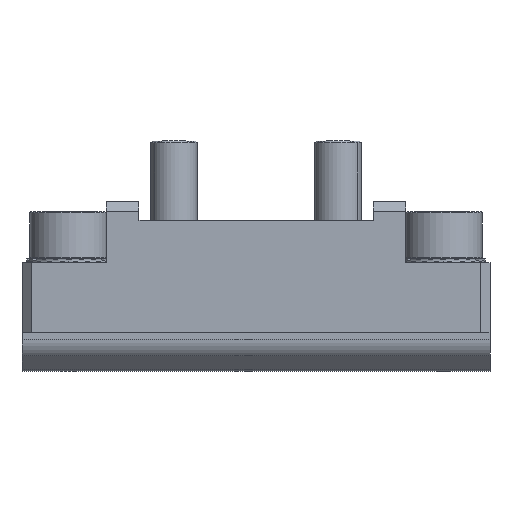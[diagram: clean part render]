
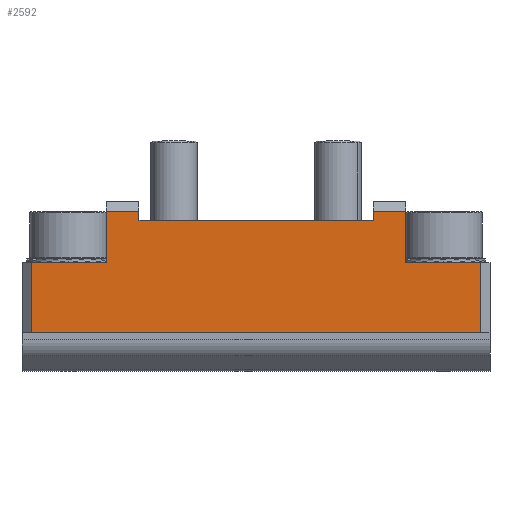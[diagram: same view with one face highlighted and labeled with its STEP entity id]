
A CAD part, top view. The second image highlights one B-rep face of the part: STEP entity #2592.
In plain terms, the highlighted planar face has unit normal (0, 0, 1).
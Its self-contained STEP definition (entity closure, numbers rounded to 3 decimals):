
#101 = LINE ( 'NONE', #7714, #2451 ) ;
#172 = ORIENTED_EDGE ( 'NONE', *, *, #2433, .F. ) ;
#180 = LINE ( 'NONE', #8899, #8640 ) ;
#224 = LINE ( 'NONE', #10156, #4158 ) ;
#262 = EDGE_CURVE ( 'NONE', #6896, #6360, #1498, .T. ) ;
#278 = VERTEX_POINT ( 'NONE', #9020 ) ;
#348 = CARTESIAN_POINT ( 'NONE',  ( -24., 0., 15. ) ) ;
#681 = VERTEX_POINT ( 'NONE', #3800 ) ;
#784 = CARTESIAN_POINT ( 'NONE',  ( 12.5, 12., 15. ) ) ;
#836 = VECTOR ( 'NONE', #8524, 1000. ) ;
#858 = CARTESIAN_POINT ( 'NONE',  ( -12.5, 13., 15. ) ) ;
#940 = LINE ( 'NONE', #9199, #8890 ) ;
#959 = ORIENTED_EDGE ( 'NONE', *, *, #9883, .T. ) ;
#1185 = EDGE_CURVE ( 'NONE', #2679, #5207, #224, .T. ) ;
#1233 = CARTESIAN_POINT ( 'NONE',  ( -25., 7.5, 15. ) ) ;
#1235 = VERTEX_POINT ( 'NONE', #5519 ) ;
#1248 = VECTOR ( 'NONE', #9175, 1000. ) ;
#1415 = EDGE_CURVE ( 'NONE', #2679, #6471, #101, .T. ) ;
#1460 = DIRECTION ( 'NONE',  ( 0., -1., 0. ) ) ;
#1482 = ORIENTED_EDGE ( 'NONE', *, *, #3691, .T. ) ;
#1498 = LINE ( 'NONE', #1848, #1740 ) ;
#1521 = VECTOR ( 'NONE', #7177, 1000. ) ;
#1542 = DIRECTION ( 'NONE',  ( 0., 1., 0. ) ) ;
#1589 = CARTESIAN_POINT ( 'NONE',  ( 12.5, 13., 15. ) ) ;
#1740 = VECTOR ( 'NONE', #5784, 1000. ) ;
#1848 = CARTESIAN_POINT ( 'NONE',  ( -25., 0., 15. ) ) ;
#1884 = CARTESIAN_POINT ( 'NONE',  ( -16., 7.5, 15. ) ) ;
#2433 = EDGE_CURVE ( 'NONE', #1235, #278, #4768, .T. ) ;
#2451 = VECTOR ( 'NONE', #4549, 1000. ) ;
#2592 = ADVANCED_FACE ( 'NONE', ( #9891 ), #9484, .T. ) ;
#2679 = VERTEX_POINT ( 'NONE', #858 ) ;
#2725 = VECTOR ( 'NONE', #1542, 1000. ) ;
#2816 = VERTEX_POINT ( 'NONE', #784 ) ;
#2956 = CARTESIAN_POINT ( 'NONE',  ( 16., 14., 15. ) ) ;
#3004 = CARTESIAN_POINT ( 'NONE',  ( -16., 13., 15. ) ) ;
#3146 = EDGE_CURVE ( 'NONE', #5207, #2816, #940, .T. ) ;
#3606 = DIRECTION ( 'NONE',  ( 1., 0., 0. ) ) ;
#3607 = LINE ( 'NONE', #3970, #1521 ) ;
#3635 = ORIENTED_EDGE ( 'NONE', *, *, #4715, .F. ) ;
#3687 = VECTOR ( 'NONE', #9155, 1000. ) ;
#3691 = EDGE_CURVE ( 'NONE', #6360, #681, #180, .T. ) ;
#3800 = CARTESIAN_POINT ( 'NONE',  ( 24., 7.5, 15. ) ) ;
#3943 = LINE ( 'NONE', #8348, #3687 ) ;
#3970 = CARTESIAN_POINT ( 'NONE',  ( -24., 0., 15. ) ) ;
#4094 = DIRECTION ( 'NONE',  ( 0., 1., 0. ) ) ;
#4158 = VECTOR ( 'NONE', #1460, 1000. ) ;
#4251 = EDGE_LOOP ( 'NONE', ( #7505, #9873, #3635, #4765, #6613, #9668, #1482, #7893, #172, #959, #7540, #9721 ) ) ;
#4252 = CARTESIAN_POINT ( 'NONE',  ( -16., 7.5, 15. ) ) ;
#4549 = DIRECTION ( 'NONE',  ( -1., 0., 0. ) ) ;
#4696 = DIRECTION ( 'NONE',  ( 0., 0., 1. ) ) ;
#4715 = EDGE_CURVE ( 'NONE', #9220, #6471, #6236, .T. ) ;
#4765 = ORIENTED_EDGE ( 'NONE', *, *, #7541, .F. ) ;
#4768 = LINE ( 'NONE', #2956, #836 ) ;
#5136 = CARTESIAN_POINT ( 'NONE',  ( 24., 0., 15. ) ) ;
#5207 = VERTEX_POINT ( 'NONE', #8858 ) ;
#5420 = AXIS2_PLACEMENT_3D ( 'NONE', #7878, #4696, #10136 ) ;
#5422 = CARTESIAN_POINT ( 'NONE',  ( -24., 7.5, 15. ) ) ;
#5519 = CARTESIAN_POINT ( 'NONE',  ( 16., 13., 15. ) ) ;
#5757 = VERTEX_POINT ( 'NONE', #1589 ) ;
#5784 = DIRECTION ( 'NONE',  ( 1., 0., 0. ) ) ;
#5852 = DIRECTION ( 'NONE',  ( 0., 1., 0. ) ) ;
#5973 = VECTOR ( 'NONE', #5852, 1000. ) ;
#6095 = VECTOR ( 'NONE', #9189, 1000. ) ;
#6236 = LINE ( 'NONE', #1884, #5973 ) ;
#6284 = CARTESIAN_POINT ( 'NONE',  ( 12.5, 12., 15. ) ) ;
#6360 = VERTEX_POINT ( 'NONE', #5136 ) ;
#6471 = VERTEX_POINT ( 'NONE', #3004 ) ;
#6613 = ORIENTED_EDGE ( 'NONE', *, *, #7782, .T. ) ;
#6896 = VERTEX_POINT ( 'NONE', #348 ) ;
#6925 = EDGE_CURVE ( 'NONE', #278, #681, #3943, .T. ) ;
#7177 = DIRECTION ( 'NONE',  ( 0., -1., 0. ) ) ;
#7505 = ORIENTED_EDGE ( 'NONE', *, *, #1185, .F. ) ;
#7540 = ORIENTED_EDGE ( 'NONE', *, *, #10162, .F. ) ;
#7541 = EDGE_CURVE ( 'NONE', #8894, #9220, #8503, .T. ) ;
#7714 = CARTESIAN_POINT ( 'NONE',  ( -25., 13., 15. ) ) ;
#7782 = EDGE_CURVE ( 'NONE', #8894, #6896, #3607, .T. ) ;
#7878 = CARTESIAN_POINT ( 'NONE',  ( -25., 0., 15. ) ) ;
#7893 = ORIENTED_EDGE ( 'NONE', *, *, #6925, .F. ) ;
#8348 = CARTESIAN_POINT ( 'NONE',  ( 16., 7.5, 15. ) ) ;
#8374 = CARTESIAN_POINT ( 'NONE',  ( -25., 13., 15. ) ) ;
#8503 = LINE ( 'NONE', #1233, #6095 ) ;
#8524 = DIRECTION ( 'NONE',  ( 0., -1., 0. ) ) ;
#8640 = VECTOR ( 'NONE', #4094, 1000. ) ;
#8858 = CARTESIAN_POINT ( 'NONE',  ( -12.5, 12., 15. ) ) ;
#8890 = VECTOR ( 'NONE', #3606, 1000. ) ;
#8894 = VERTEX_POINT ( 'NONE', #5422 ) ;
#8899 = CARTESIAN_POINT ( 'NONE',  ( 24., 0., 15. ) ) ;
#9020 = CARTESIAN_POINT ( 'NONE',  ( 16., 7.5, 15. ) ) ;
#9073 = LINE ( 'NONE', #6284, #2725 ) ;
#9155 = DIRECTION ( 'NONE',  ( 1., 0., 0. ) ) ;
#9175 = DIRECTION ( 'NONE',  ( -1., 0., 0. ) ) ;
#9189 = DIRECTION ( 'NONE',  ( 1., 0., 0. ) ) ;
#9199 = CARTESIAN_POINT ( 'NONE',  ( -12.5, 12., 15. ) ) ;
#9220 = VERTEX_POINT ( 'NONE', #4252 ) ;
#9484 = PLANE ( 'NONE',  #5420 ) ;
#9668 = ORIENTED_EDGE ( 'NONE', *, *, #262, .T. ) ;
#9705 = LINE ( 'NONE', #8374, #1248 ) ;
#9721 = ORIENTED_EDGE ( 'NONE', *, *, #3146, .F. ) ;
#9873 = ORIENTED_EDGE ( 'NONE', *, *, #1415, .T. ) ;
#9883 = EDGE_CURVE ( 'NONE', #1235, #5757, #9705, .T. ) ;
#9891 = FACE_OUTER_BOUND ( 'NONE', #4251, .T. ) ;
#10136 = DIRECTION ( 'NONE',  ( 1., 0., 0. ) ) ;
#10156 = CARTESIAN_POINT ( 'NONE',  ( -12.5, 14., 15. ) ) ;
#10162 = EDGE_CURVE ( 'NONE', #2816, #5757, #9073, .T. ) ;
